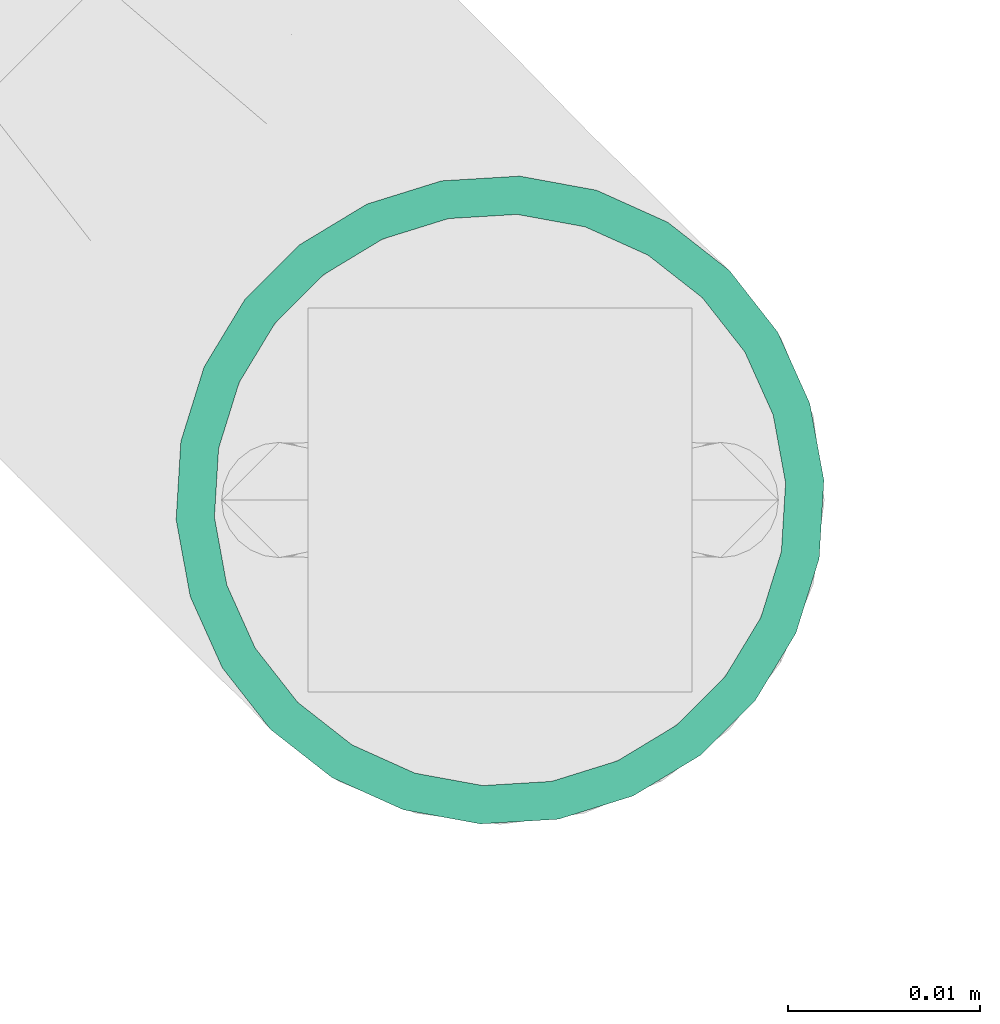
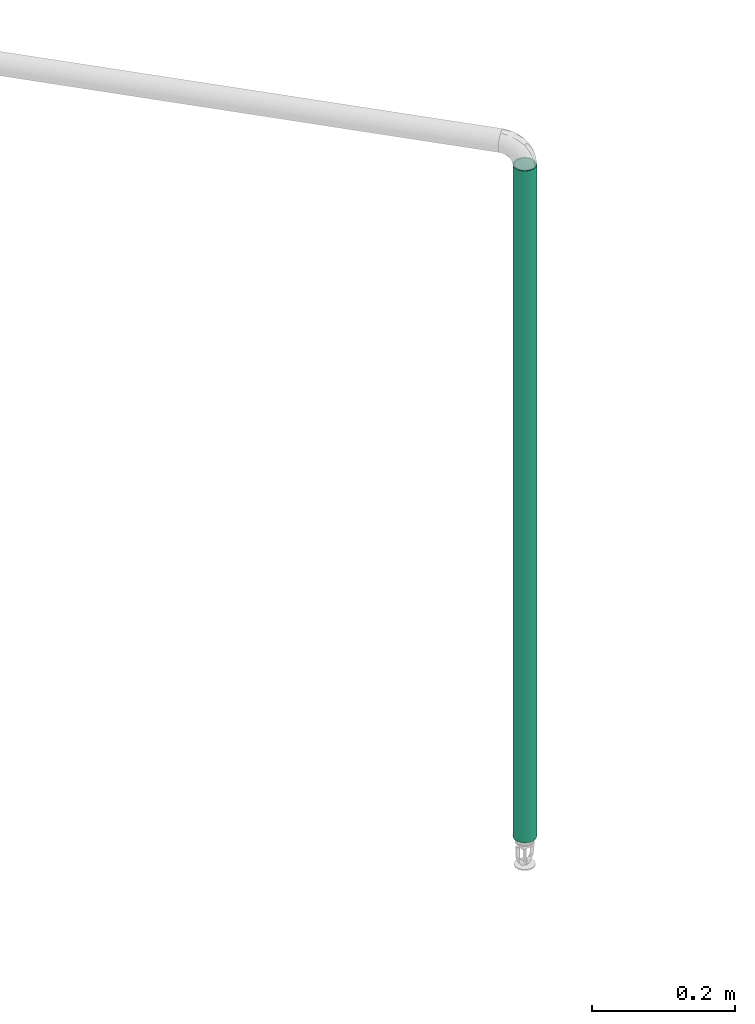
# One storey, part 2 of 17: 1 flow segment.
"""IFC2X3 building model written with IfcOpenShell, lengths in millimetres."""

from ifc_helpers import new_model, entity, si_unit, converted_unit, derived_unit, direction, frame, origin_with_axes, origin_2d_with_axis, place, context, subcontext, project, spatial, hollow_circle, extrude, source, transform, mapped, type_object, element, save


model = new_model("IFC2X3")

# Units and contexts
model_context = context("Model", 3, precision=0.01, world=frame((0.0, 4.29681676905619e-09, 0.0)), true_north=direction((4.01073788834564e-13, 1.0)))
plan_context = context("Plan", 3, precision=0.01, world=frame((0.0, 4.29681676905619e-09, 0.0)), true_north=direction((4.01073788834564e-13, 1.0)))
body_context = subcontext(model_context, "Body", "Model", "MODEL_VIEW")
ifc_project = project(units=[converted_unit("PLANEANGLEUNIT", "DEGREE", entity("IfcPositiveLengthMeasure", 0.0174532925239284), si_unit("PLANEANGLEUNIT", "RADIAN"), dimensions=[0, 0, 0, 0, 0, 0, 0]), si_unit("AREAUNIT", "SQUARE_METRE"), si_unit("LENGTHUNIT", "METRE", prefix="MILLI"), si_unit("MASSUNIT", "GRAM", prefix="KILO"), si_unit("POWERUNIT", "WATT"), si_unit("PRESSUREUNIT", "PASCAL", prefix="KILO"), si_unit("FORCEUNIT", "NEWTON", prefix="KILO"), si_unit("ELECTRICVOLTAGEUNIT", "VOLT"), si_unit("ELECTRICCURRENTUNIT", "AMPERE"), si_unit("THERMODYNAMICTEMPERATUREUNIT", "DEGREE_CELSIUS"), si_unit("TIMEUNIT", "SECOND"), si_unit("VOLUMEUNIT", "CUBIC_METRE"), derived_unit("LINEARVELOCITYUNIT", [(si_unit("LENGTHUNIT", "METRE"), 1), (si_unit("TIMEUNIT", "SECOND"), -1)]), derived_unit("VOLUMETRICFLOWRATEUNIT", [(si_unit("VOLUMEUNIT", "CUBIC_METRE"), 1), (si_unit("TIMEUNIT", "SECOND"), -1)]), derived_unit("THERMALTRANSMITTANCEUNIT", [(si_unit("POWERUNIT", "WATT"), 1), (si_unit("THERMODYNAMICTEMPERATUREUNIT", "KELVIN"), -1), (si_unit("AREAUNIT", "SQUARE_METRE"), -1)]), derived_unit("SOUNDPRESSUREUNIT", [(si_unit("PRESSUREUNIT", "PASCAL"), 1)])], contexts=[model_context, plan_context])

# Site, building, storey
site_placement = place(None, frame((0.0, -4.29681676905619e-09, 0.0), z_axis=(0.0, 0.0, 1.0), x_axis=(1.0, 0.0, 0.0)))
site = spatial("IfcSite", under=ifc_project, at=site_placement, CompositionType="ELEMENT")
building_placement = place(site_placement, frame((0.0, 4.29681676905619e-09, 0.0), z_axis=(0.0, 0.0, 1.0), x_axis=(1.0, 0.0, 0.0)))
building = spatial("IfcBuilding", under=site, at=building_placement, Name="mc-building", CompositionType="ELEMENT")
storey_placement = place(building_placement, frame((0.0, 0.0, 204000.0), z_axis=(0.0, 0.0, 1.0), x_axis=(1.0, 0.0, 0.0)))
storey = spatial("IfcBuildingStorey", under=building, at=storey_placement, Name="Nivå D", CompositionType="ELEMENT", Elevation=204000.0)

# Flow segment
pipe_segment_type = type_object("IfcPipeSegmentType", Name="Stålrør normaltykke", PredefinedType="RIGIDSEGMENT")
shared_shape = source(origin_with_axes(), body_context, "Body", "SweptSolid", [
    extrude(hollow_circle(Radius=16.9, WallThickness=2.0, at=origin_2d_with_axis()), frame((0.0, 0.0, 0.0), z_axis=(1.0, 0.0, 0.0), x_axis=(0.0, 1.0, 0.0)), (0.0, 0.0, 1.0), 1148.2),
])
flow_segment_placement = place(storey_placement, frame((600314.0709, 400725.12566, 2207.95164000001), z_axis=(-0.707106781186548, 0.707106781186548, 0.0), x_axis=(0.0, 0.0, 1.0)))
element("IfcFlowSegment", 1, at=flow_segment_placement, inside=storey, type_object=pipe_segment_type, Name="Stålrør normaltykke", context=body_context, shape_type="MappedRepresentation", body=[
    mapped(shared_shape, transform((0.0, 0.0, 0.0), scale=1.0)),
])

save(model, "model.ifc")
